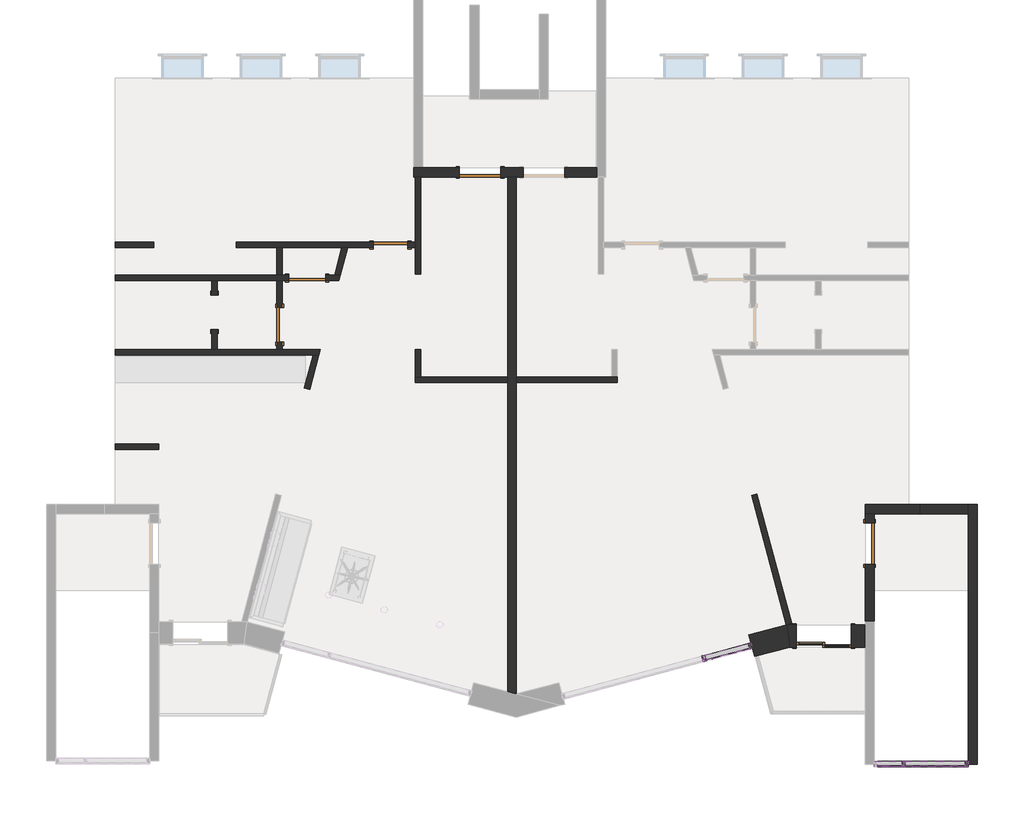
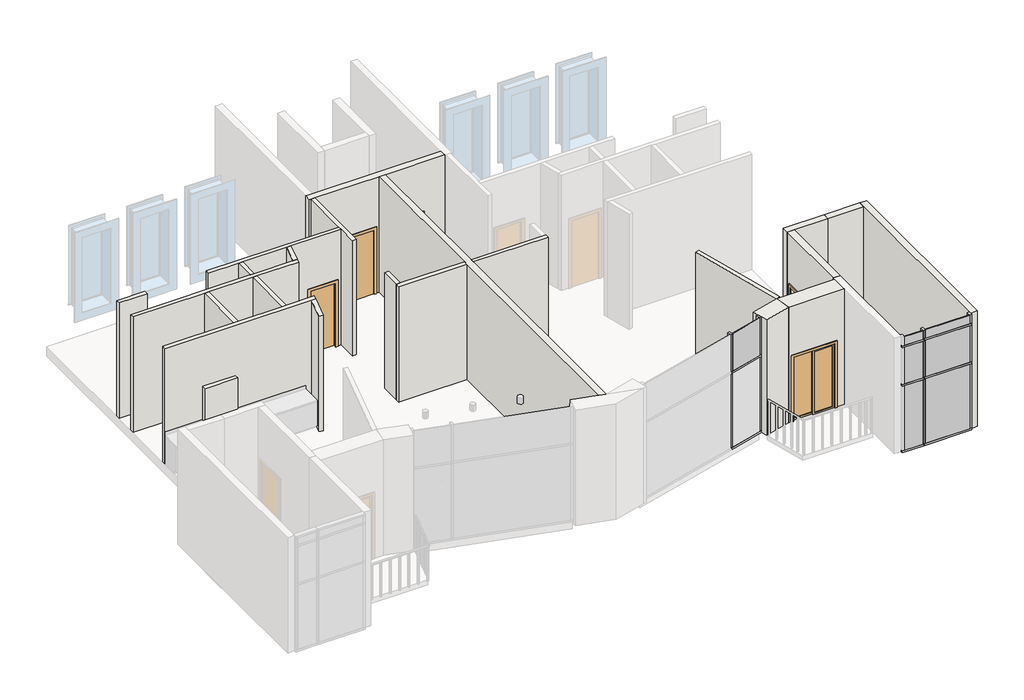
# One storey, part 2 of 3: 23 walls, 18 members, 7 doors, 7 plates.
"""IFC4 building model written with IfcOpenShell, lengths in millimetres."""

from ifc_helpers import new_model, si_unit, frame, origin, place, context, project, spatial, polyline, outline, extrude, faceted_brep, transform, mapped, element, save
from components import door_1d05c9dd, door_91cbdfe0, door_39079f6b, door_8a652669, door_09f6fe45, sliding_2_panel_fa528627, glazed_panel_glazed_panel_41280a37, glazed_panel_glazed_panel_5dc94581, glazed_panel_glazed_panel_56ef64bd, glazed_panel_glazed_panel_eaccde55, glazed_panel_glazed_panel_fd88623c, glazed_panel_glazed_panel_71207702, glazed_panel_glazed_panel_82ed4464

model = new_model("IFC4")

# Units and contexts
model_context = context("Model", 3, world=origin())
ifc_project = project(units=[si_unit("LENGTHUNIT", "METRE", prefix="MILLI")], contexts=[model_context])

# Site, building, storey
site = spatial("IfcSite", under=ifc_project)
building = spatial("IfcBuilding", under=site)
storey = spatial("IfcBuildingStorey", under=building, Name="2nd Flr. Cnst.", Elevation=3657.6)

# Doors
placement = place(None, origin())
door_shape = door_1d05c9dd(model_context)
element("IfcDoor", 1, ObjectType="Cased Opening : 30\" x 80\"", at=placement, inside=storey, context=model_context, shape_type="MappedRepresentation", body=[
    mapped(door_shape, transform((1154.389151, 4191.4326139, 3657.6), x_axis=(0.0, 1.0, 0.0), y_axis=(-1.0, 0.0, 0.0), z_axis=(0.0, 0.0, 1.0))),
])
door_2_shape = door_91cbdfe0(model_context)
element("IfcDoor", 2, ObjectType="Sgl Flush : 30\" x 80\"", at=placement, inside=storey, context=model_context, shape_type="MappedRepresentation", body=[
    mapped(door_2_shape, transform((2598.9499515, 3915.2076139, 3657.6), x_axis=(0.0, -1.0, 0.0), y_axis=(1.0, 0.0, 0.0), z_axis=(0.0, 0.0, 1.0))),
])
door_3_shape = door_39079f6b(model_context)
element("IfcDoor", 3, ObjectType="Sgl Flush : 30\" x 80\"", at=placement, inside=storey, context=model_context, shape_type="MappedRepresentation", body=[
    mapped(door_3_shape, transform((5056.659118, 5686.8576139, 3657.6), x_axis=(1.0, 0.0, 0.0), y_axis=(0.0, 1.0, 0.0), z_axis=(0.0, 0.0, 1.0))),
])
door_4_shape = door_8a652669(model_context)
element("IfcDoor", 4, ObjectType="Sgl Flush : 32\" x 84\"", at=placement, inside=storey, context=model_context, shape_type="MappedRepresentation", body=[
    mapped(door_4_shape, transform((3208.5499515, 4953.4326139, 3657.6), x_axis=(-1.0, 0.0, 0.0), y_axis=(0.0, -1.0, 0.0), z_axis=(0.0, 0.0, 1.0))),
])
door_5_shape = door_09f6fe45(model_context)
element("IfcDoor", 5, ObjectType="Sgl Flush : 36\" x 80\"", at=placement, inside=storey, context=model_context, shape_type="MappedRepresentation", body=[
    mapped(door_5_shape, transform((15670.684118, -933.2992683, 3657.6), x_axis=(0.0, 1.0, 0.0), y_axis=(-1.0, 0.0, 0.0), z_axis=(0.0, 0.0, 1.0))),
])
element("IfcDoor", 6, ObjectType="Sgl Flush : 36\" x 80\"", at=placement, inside=storey, context=model_context, shape_type="MappedRepresentation", body=[
    mapped(door_5_shape, transform((7039.446618, 7296.3007317, 3657.6), x_axis=(1.0, 0.0, 0.0), y_axis=(0.0, 1.0, 0.0), z_axis=(0.0, 0.0, 1.0))),
])
sliding_2_panel_shape = sliding_2_panel_fa528627(model_context)
element("IfcDoor", 7, ObjectType="Sliding-2 panel : Cohouse - Sliding-2 ", at=placement, inside=storey, context=model_context, shape_type="MappedRepresentation", body=[
    mapped(sliding_2_panel_shape, transform((14654.684118, -2855.2035513, 3657.6), x_axis=(-1.0, 0.0, 0.0), y_axis=(0.0, -1.0, 0.0), z_axis=(0.0, 0.0, 1.0))),
])

# Members
element("IfcMember", 8, ObjectType="Rectangular Mullion : 2.5\" x 5\" rectangular", at=placement, inside=storey, context=model_context, shape_type="SweptSolid", body=[
    extrude(outline(polyline([(11954.4366424, -3428.4459656), (12015.7729323, -3412.0109562), (12048.642951, -3534.6835361), (11987.3066611, -3551.1185455), (11954.4366424, -3428.4459656)])), frame((0.0, 0.0, 3721.1), z_axis=(0.0, 0.0, 1.0), x_axis=(1.0, 0.0, 0.0)), (0.0, 0.0, 1.0), 2343.15),
])
element("IfcMember", 9, ObjectType="Rectangular Mullion : 2.5\" x 5\" rectangular", at=placement, inside=storey, context=model_context, shape_type="SweptSolid", body=[
    extrude(outline(polyline([(11954.4366424, -3428.4459656), (12015.7729323, -3412.0109562), (12048.642951, -3534.6835361), (11987.3066611, -3551.1185455), (11954.4366424, -3428.4459656)])), frame((0.0, 0.0, 6127.75), z_axis=(0.0, 0.0, 1.0), x_axis=(1.0, 0.0, 0.0)), (0.0, 0.0, 1.0), 1187.45),
])
element("IfcMember", 10, ObjectType="Rectangular Mullion : 2.5\" x 5\" rectangular", at=placement, inside=storey, context=model_context, shape_type="SweptSolid", body=[
    extrude(outline(polyline([(12017.9748061, -3542.9010408), (11985.1047873, -3420.2284609), (13040.6642809, -3137.392147), (13073.5342996, -3260.064727), (12017.9748061, -3542.9010408)])), frame((0.0, 0.0, 6064.25), z_axis=(0.0, 0.0, 1.0), x_axis=(1.0, 0.0, 0.0)), (0.0, 0.0, 1.0), 63.5),
])
element("IfcMember", 11, ObjectType="Rectangular Mullion : 2.5\" x 5\" rectangular", at=placement, inside=storey, context=model_context, shape_type="SweptSolid", body=[
    extrude(outline(polyline([(13040.6642809, -3137.392147), (13073.5342996, -3260.064727), (12017.9748061, -3542.9010408), (11985.1047873, -3420.2284609), (13040.6642809, -3137.392147)])), frame((0.0, 0.0, 3657.6), z_axis=(0.0, 0.0, 1.0), x_axis=(1.0, 0.0, 0.0)), (0.0, 0.0, 1.0), 63.5),
])
element("IfcMember", 12, ObjectType="Rectangular Mullion : 2.5\" x 5\" rectangular", at=placement, inside=storey, context=model_context, shape_type="SweptSolid", body=[
    extrude(outline(polyline([(13040.6642809, -3137.392147), (13073.5342996, -3260.064727), (13012.1980097, -3276.4997363), (12979.3279909, -3153.8271564), (13040.6642809, -3137.392147)])), frame((0.0, 0.0, 6127.75), z_axis=(0.0, 0.0, 1.0), x_axis=(1.0, 0.0, 0.0)), (0.0, 0.0, 1.0), 1187.45),
])
element("IfcMember", 13, ObjectType="Rectangular Mullion : 2.5\" x 5\" rectangular", at=placement, inside=storey, context=model_context, shape_type="SweptSolid", body=[
    extrude(outline(polyline([(13040.6642809, -3137.392147), (13073.5342996, -3260.064727), (13012.1980097, -3276.4997363), (12979.3279909, -3153.8271564), (13040.6642809, -3137.392147)])), frame((0.0, 0.0, 3721.1), z_axis=(0.0, 0.0, 1.0), x_axis=(1.0, 0.0, 0.0)), (0.0, 0.0, 1.0), 2343.15),
])
element("IfcMember", 14, ObjectType="Rectangular Mullion : 2.5\" x 5\" rectangular", at=placement, inside=storey, context=model_context, shape_type="SweptSolid", body=[
    extrude(outline(polyline([(16391.409118, -5759.6962362), (16454.909118, -5759.6962362), (16454.909118, -5886.6962362), (16391.409118, -5886.6962362), (16391.409118, -5759.6962362)])), frame((0.0, 0.0, 3721.1), z_axis=(0.0, 0.0, 1.0), x_axis=(1.0, 0.0, 0.0)), (0.0, 0.0, 1.0), 2038.35),
])
element("IfcMember", 15, ObjectType="Rectangular Mullion : 2.5\" x 5\" rectangular", at=placement, inside=storey, context=model_context, shape_type="SweptSolid", body=[
    extrude(outline(polyline([(16391.409118, -5759.6962362), (16454.909118, -5759.6962362), (16454.909118, -5886.6962362), (16391.409118, -5886.6962362), (16391.409118, -5759.6962362)])), frame((0.0, 0.0, 7042.15), z_axis=(0.0, 0.0, 1.0), x_axis=(1.0, 0.0, 0.0)), (0.0, 0.0, 1.0), 273.05),
])
element("IfcMember", 16, ObjectType="Rectangular Mullion : 2.5\" x 5\" rectangular", at=placement, inside=storey, context=model_context, shape_type="SweptSolid", body=[
    extrude(outline(polyline([(16391.409118, -5759.6962362), (16454.909118, -5759.6962362), (16454.909118, -5886.6962362), (16391.409118, -5886.6962362), (16391.409118, -5759.6962362)])), frame((0.0, 0.0, 5822.95), z_axis=(0.0, 0.0, 1.0), x_axis=(1.0, 0.0, 0.0)), (0.0, 0.0, 1.0), 1155.7),
])
element("IfcMember", 17, ObjectType="Rectangular Mullion : 2.5\" x 5\" rectangular", at=placement, inside=storey, context=model_context, shape_type="SweptSolid", body=[
    extrude(outline(polyline([(17855.084118, -5759.6962362), (17855.084118, -5886.6962362), (16423.159118, -5886.6962362), (16423.159118, -5759.6962362), (17855.084118, -5759.6962362)])), frame((0.0, 0.0, 3657.6), z_axis=(0.0, 0.0, 1.0), x_axis=(1.0, 0.0, 0.0)), (0.0, 0.0, 1.0), 63.5),
])
element("IfcMember", 18, ObjectType="Rectangular Mullion : 2.5\" x 5\" rectangular", at=placement, inside=storey, context=model_context, shape_type="SweptSolid", body=[
    extrude(outline(polyline([(17855.084118, -5759.6962362), (17855.084118, -5886.6962362), (17791.584118, -5886.6962362), (17791.584118, -5759.6962362), (17855.084118, -5759.6962362)])), frame((0.0, 0.0, 7042.15), z_axis=(0.0, 0.0, 1.0), x_axis=(1.0, 0.0, 0.0)), (0.0, 0.0, 1.0), 273.05),
])
element("IfcMember", 19, ObjectType="Rectangular Mullion : 2.5\" x 5\" rectangular", at=placement, inside=storey, context=model_context, shape_type="SweptSolid", body=[
    extrude(outline(polyline([(16423.159118, -5886.6962362), (16423.159118, -5759.6962362), (17855.084118, -5759.6962362), (17855.084118, -5886.6962362), (16423.159118, -5886.6962362)])), frame((0.0, 0.0, 6978.65), z_axis=(0.0, 0.0, 1.0), x_axis=(1.0, 0.0, 0.0)), (0.0, 0.0, 1.0), 63.5),
])
element("IfcMember", 20, ObjectType="Rectangular Mullion : 2.5\" x 5\" rectangular", at=placement, inside=storey, context=model_context, shape_type="SweptSolid", body=[
    extrude(outline(polyline([(15772.284118, -5886.6962362), (15772.284118, -5759.6962362), (16423.159118, -5759.6962362), (16423.159118, -5886.6962362), (15772.284118, -5886.6962362)])), frame((0.0, 0.0, 6978.65), z_axis=(0.0, 0.0, 1.0), x_axis=(1.0, 0.0, 0.0)), (0.0, 0.0, 1.0), 63.5),
])
element("IfcMember", 21, ObjectType="Rectangular Mullion : 2.5\" x 5\" rectangular", at=placement, inside=storey, context=model_context, shape_type="SweptSolid", body=[
    extrude(outline(polyline([(16423.159118, -5886.6962362), (16423.159118, -5759.6962362), (17855.084118, -5759.6962362), (17855.084118, -5886.6962362), (16423.159118, -5886.6962362)])), frame((0.0, 0.0, 5759.45), z_axis=(0.0, 0.0, 1.0), x_axis=(1.0, 0.0, 0.0)), (0.0, 0.0, 1.0), 63.5),
])
element("IfcMember", 22, ObjectType="Rectangular Mullion : 2.5\" x 5\" rectangular", at=placement, inside=storey, context=model_context, shape_type="SweptSolid", body=[
    extrude(outline(polyline([(15772.284118, -5886.6962362), (15772.284118, -5759.6962362), (16423.159118, -5759.6962362), (16423.159118, -5886.6962362), (15772.284118, -5886.6962362)])), frame((0.0, 0.0, 5759.45), z_axis=(0.0, 0.0, 1.0), x_axis=(1.0, 0.0, 0.0)), (0.0, 0.0, 1.0), 63.5),
])
element("IfcMember", 23, ObjectType="Rectangular Mullion : 2.5\" x 5\" rectangular", at=placement, inside=storey, context=model_context, shape_type="SweptSolid", body=[
    extrude(outline(polyline([(16423.159118, -5759.6962362), (16423.159118, -5886.6962362), (15772.284118, -5886.6962362), (15772.284118, -5759.6962362), (16423.159118, -5759.6962362)])), frame((0.0, 0.0, 3657.6), z_axis=(0.0, 0.0, 1.0), x_axis=(1.0, 0.0, 0.0)), (0.0, 0.0, 1.0), 63.5),
])
element("IfcMember", 24, ObjectType="Rectangular Mullion : 2.5\" x 5\" rectangular", at=placement, inside=storey, context=model_context, shape_type="SweptSolid", body=[
    extrude(outline(polyline([(17855.084118, -5759.6962362), (17855.084118, -5886.6962362), (17791.584118, -5886.6962362), (17791.584118, -5759.6962362), (17855.084118, -5759.6962362)])), frame((0.0, 0.0, 5822.95), z_axis=(0.0, 0.0, 1.0), x_axis=(1.0, 0.0, 0.0)), (0.0, 0.0, 1.0), 1155.7),
])
element("IfcMember", 25, ObjectType="Rectangular Mullion : 2.5\" x 5\" rectangular", at=placement, inside=storey, context=model_context, shape_type="SweptSolid", body=[
    extrude(outline(polyline([(17855.084118, -5759.6962362), (17855.084118, -5886.6962362), (17791.584118, -5886.6962362), (17791.584118, -5759.6962362), (17855.084118, -5759.6962362)])), frame((0.0, 0.0, 3721.1), z_axis=(0.0, 0.0, 1.0), x_axis=(1.0, 0.0, 0.0)), (0.0, 0.0, 1.0), 2038.35),
])

# Plates
glazed_panel_glazed_panel_shape = glazed_panel_glazed_panel_41280a37(model_context)
element("IfcPlate", 26, ObjectType="Glazed Panel : Glazed Panel", at=placement, inside=storey, context=model_context, shape_type="MappedRepresentation", body=[
    mapped(glazed_panel_glazed_panel_shape, transform((12513.985471, -3344.2553463, 6127.75), x_axis=(-0.9659258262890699, -0.25881904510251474, 0.0), y_axis=(0.25881904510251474, -0.9659258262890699, 0.0), z_axis=(0.0, 0.0, 1.0))),
])
glazed_panel_glazed_panel_2_shape = glazed_panel_glazed_panel_5dc94581(model_context)
element("IfcPlate", 27, ObjectType="Glazed Panel : Glazed Panel", at=placement, inside=storey, context=model_context, shape_type="MappedRepresentation", body=[
    mapped(glazed_panel_glazed_panel_2_shape, transform((17123.246618, -5823.1962362, 3721.1), x_axis=(-1.0, 0.0, 0.0), y_axis=(0.0, -1.0, 0.0), z_axis=(0.0, 0.0, 1.0))),
])
glazed_panel_glazed_panel_3_shape = glazed_panel_glazed_panel_56ef64bd(model_context)
element("IfcPlate", 28, ObjectType="Glazed Panel : Glazed Panel", at=placement, inside=storey, context=model_context, shape_type="MappedRepresentation", body=[
    mapped(glazed_panel_glazed_panel_3_shape, transform((17123.246618, -5823.1962362, 7042.15), x_axis=(-1.0, 0.0, 0.0), y_axis=(0.0, -1.0, 0.0), z_axis=(0.0, 0.0, 1.0))),
])
glazed_panel_glazed_panel_4_shape = glazed_panel_glazed_panel_eaccde55(model_context)
element("IfcPlate", 29, ObjectType="Glazed Panel : Glazed Panel", at=placement, inside=storey, context=model_context, shape_type="MappedRepresentation", body=[
    mapped(glazed_panel_glazed_panel_4_shape, transform((16113.596618, -5823.1962362, 3721.1), x_axis=(-1.0, 0.0, 0.0), y_axis=(0.0, -1.0, 0.0), z_axis=(0.0, 0.0, 1.0))),
])
glazed_panel_glazed_panel_5_shape = glazed_panel_glazed_panel_fd88623c(model_context)
element("IfcPlate", 30, ObjectType="Glazed Panel : Glazed Panel", at=placement, inside=storey, context=model_context, shape_type="MappedRepresentation", body=[
    mapped(glazed_panel_glazed_panel_5_shape, transform((16113.596618, -5823.1962362, 7042.15), x_axis=(-1.0, 0.0, 0.0), y_axis=(0.0, -1.0, 0.0), z_axis=(0.0, 0.0, 1.0))),
])
glazed_panel_glazed_panel_6_shape = glazed_panel_glazed_panel_71207702(model_context)
element("IfcPlate", 31, ObjectType="Glazed Panel : Glazed Panel", at=placement, inside=storey, context=model_context, shape_type="MappedRepresentation", body=[
    mapped(glazed_panel_glazed_panel_6_shape, transform((17123.246618, -5823.1962362, 5822.95), x_axis=(-1.0, 0.0, 0.0), y_axis=(0.0, -1.0, 0.0), z_axis=(0.0, 0.0, 1.0))),
])
glazed_panel_glazed_panel_7_shape = glazed_panel_glazed_panel_82ed4464(model_context)
element("IfcPlate", 32, ObjectType="Glazed Panel : Glazed Panel", at=placement, inside=storey, context=model_context, shape_type="MappedRepresentation", body=[
    mapped(glazed_panel_glazed_panel_7_shape, transform((16113.596618, -5823.1962362, 5822.95), x_axis=(-1.0, 0.0, 0.0), y_axis=(0.0, -1.0, 0.0), z_axis=(0.0, 0.0, 1.0))),
])

# Walls
element("IfcWall", 33, ObjectType="Cohouse - Exterior - Conc", at=placement, inside=storey, context=model_context, shape_type="Brep", body=[
    faceted_brep([(7496.646618, 7194.7007317, 3657.6), (7649.046618, 7194.7007317, 3657.6), (7842.721618, 7194.7007317, 3657.6), (7995.121618, 7194.7007317, 3657.6), (7995.121618, 7194.7007317, 5689.6), (8909.521618, 7194.7007317, 5689.6), (8909.521618, 7194.7007317, 3657.6), (9618.6821195, 7194.7007317, 3657.6), (9618.6821195, 7194.7007317, 7315.2), (7842.721618, 7194.7007317, 7315.2), (7649.046618, 7194.7007317, 7315.2), (5728.171618, 7194.7007317, 7315.2), (5604.346618, 7194.7007317, 7315.2), (5564.659118, 7194.7007317, 7315.2), (5564.659118, 7194.7007317, 3657.6), (5604.346618, 7194.7007317, 3657.6), (5728.171618, 7194.7007317, 3657.6), (6582.246618, 7194.7007317, 3657.6), (6582.246618, 7194.7007317, 5689.6), (7496.646618, 7194.7007317, 5689.6), (7995.121618, 7397.9007317, 5689.6), (7995.121618, 7397.9007317, 3657.6), (7496.646618, 7397.9007317, 3657.6), (7496.646618, 7397.9007317, 5689.6), (6582.246618, 7397.9007317, 5689.6), (6582.246618, 7397.9007317, 3657.6), (5767.859118, 7397.9007317, 3657.6), (5564.659118, 7397.9007317, 3657.6), (5564.659118, 7397.9007317, 7315.2), (5767.859118, 7397.9007317, 7315.2), (9618.6821195, 7397.9007317, 7315.2), (9618.6821195, 7397.9007317, 3657.6), (8909.521618, 7397.9007317, 3657.6), (8909.521618, 7397.9007317, 5689.6)], [[[0, 1, 2, 3, 4, 5, 6, 7, 8, 9, 10, 11, 12, 13, 14, 15, 16, 17, 18, 19]], [[20, 21, 22, 23, 24, 25, 26, 27, 28, 29, 30, 31, 32, 33]], [[22, 21, 3, 2, 1, 0]], [[17, 16, 15, 14, 27, 26, 25]], [[32, 31, 7, 6]], [[13, 12, 11, 10, 9, 8, 30, 29, 28]], [[14, 13, 28, 27]], [[8, 7, 31, 30]], [[23, 22, 0, 19]], [[24, 23, 19, 18]], [[25, 24, 18, 17]], [[4, 3, 21, 20]], [[5, 4, 20, 33]], [[6, 5, 33, 32]]]),
])
element("IfcWall", 34, ObjectType="Cohouse - Exterior - Conc", at=placement, inside=storey, context=model_context, shape_type="Brep", body=[
    faceted_brep([(15569.084118, -272.8992683, 3657.6), (15772.284118, -272.8992683, 3657.6), (16785.109118, -272.8992683, 3657.6), (16785.109118, -272.8992683, 7315.2), (15772.284118, -272.8992683, 7315.2), (15569.084118, -272.8992683, 7315.2), (15569.084118, -69.6992683, 3657.6), (15569.084118, -69.6992683, 7315.2), (16785.109118, -69.6992683, 7315.2), (16785.109118, -69.6992683, 3657.6), (16785.109118, -268.4202344, 3657.6), (16785.109118, -266.1666814, 7315.2)], [[[0, 1, 2, 3, 4, 5]], [[6, 7, 8, 9]], [[2, 1, 0, 6, 9, 10]], [[3, 2, 10, 9, 8, 11]], [[5, 4, 3, 11, 8, 7]], [[0, 5, 7, 6]]]),
])
element("IfcWall", 35, ObjectType="Cohouse - Exterior - Conc", at=placement, inside=storey, context=model_context, shape_type="Brep", body=[
    faceted_brep([(17855.084118, -69.6992683, 3657.6), (17855.084118, -272.8992683, 3657.6), (17855.084118, -5792.9662808, 3657.6), (17855.084118, -5823.1962362, 3657.6), (17855.084118, -5823.1962362, 7315.2), (17855.084118, -5816.4636494, 7315.2), (17855.084118, -272.8992683, 7315.2), (17855.084118, -69.6992683, 7315.2), (18058.284118, -69.6992683, 3657.6), (18058.284118, -69.6992683, 7315.2), (18058.284118, -5816.4636494, 7315.2), (18058.284118, -5823.1962362, 7315.2), (18058.284118, -5823.1962362, 3657.6), (18058.284118, -5792.9662808, 3657.6)], [[[0, 1, 2, 3, 4, 5, 6, 7]], [[8, 9, 10, 11, 12, 13]], [[3, 2, 1, 0, 8, 13, 12]], [[4, 3, 12, 11]], [[7, 6, 5, 4, 11, 10, 9]], [[0, 7, 9, 8]]]),
])
element("IfcWall", 36, ObjectType="Cohouse - Exterior - Conc", at=placement, inside=storey, context=model_context, shape_type="SweptSolid", body=[
    extrude(outline(polyline([(-272.8992683, 3657.6), (-476.0992683, 3657.6), (-476.0992683, 5689.6), (-1390.4992683, 5689.6), (-1390.4992683, 3657.6), (-2662.0867683, 3657.6), (-2662.0867683, 7315.2), (-272.8992683, 7315.2), (-272.8992683, 3657.6)])), frame((15569.084118, 0.0, 0.0), z_axis=(1.0, 0.0, 0.0), x_axis=(0.0, 1.0, 0.0)), (0.0, 0.0, 1.0), 203.2),
])
element("IfcWall", 37, ObjectType="Cohouse - Exterior - Conc", at=placement, inside=storey, context=model_context, shape_type="Brep", body=[
    faceted_brep([(16785.109118, -272.8992683, 3657.6), (17855.084118, -272.8992683, 3657.6), (17855.084118, -272.8992683, 7315.2), (16785.109118, -272.8992683, 7315.2), (16785.109118, -69.6992683, 3657.6), (16785.109118, -69.6992683, 7315.2), (17855.084118, -69.6992683, 7315.2), (17855.084118, -69.6992683, 3657.6), (16785.109118, -268.4202344, 3657.6), (17855.084118, -268.4202344, 3657.6), (16785.109118, -266.1666814, 7315.2)], [[[0, 1, 2, 3]], [[4, 5, 6, 7]], [[1, 0, 8, 4, 7, 9]], [[3, 2, 6, 5, 10]], [[0, 3, 10, 5, 4, 8]], [[2, 1, 9, 7, 6]]]),
])
element("IfcWall", 38, ObjectType="Cohouse - Interior - 4 7/8\" Partition (1-hr)", at=placement, inside=storey, context=model_context, shape_type="Brep", body=[
    faceted_brep([(5604.346618, 7194.7007317, 3657.6), (5604.346618, 5748.7701139, 3657.6), (5604.346618, 5624.9451139, 3657.6), (5604.346618, 5043.9201139, 3657.6), (5604.346618, 5043.9201139, 7315.2), (5604.346618, 5624.9451139, 7315.2), (5604.346618, 5748.7701139, 7315.2), (5604.346618, 7194.7007317, 7315.2), (5728.171618, 7194.7007317, 3657.6), (5728.171618, 7194.7007317, 7315.2), (5728.171618, 5043.9201139, 7315.2), (5728.171618, 5043.9201139, 3657.6)], [[[0, 1, 2, 3, 4, 5, 6, 7]], [[8, 9, 10, 11]], [[3, 2, 1, 0, 8, 11]], [[4, 3, 11, 10]], [[7, 6, 5, 4, 10, 9]], [[0, 7, 9, 8]]]),
])
element("IfcWall", 39, ObjectType="Cohouse - Interior - 4 7/8\" Partition (1-hr)", at=placement, inside=storey, context=model_context, shape_type="Brep", body=[
    faceted_brep([(-1045.690882, 3243.6951139, 3657.6), (3338.9393518, 3243.6951139, 3657.6), (3467.1324248, 3243.6951139, 3657.6), (3467.1324248, 3243.6951139, 7315.2), (3338.9393518, 3243.6951139, 7315.2), (-1045.690882, 3243.6951139, 7315.2), (-1045.690882, 3367.5201139, 3657.6), (-1045.690882, 3367.5201139, 7315.2), (1092.476651, 3367.5201139, 7315.2), (1216.301651, 3367.5201139, 7315.2), (2537.0374515, 3367.5201139, 7315.2), (2660.8624515, 3367.5201139, 7315.2), (3500.3112336, 3367.5201139, 7315.2), (3500.3112336, 3367.5201139, 3657.6), (2660.8624515, 3367.5201139, 3657.6), (2537.0374515, 3367.5201139, 3657.6), (1216.301651, 3367.5201139, 3657.6), (1092.476651, 3367.5201139, 3657.6)], [[[0, 1, 2, 3, 4, 5]], [[6, 7, 8, 9, 10, 11, 12, 13, 14, 15, 16, 17]], [[2, 1, 0, 6, 17, 16, 15, 14, 13]], [[5, 4, 3, 12, 11, 10, 9, 8, 7]], [[3, 2, 13, 12]], [[0, 5, 7, 6]]]),
])
element("IfcWall", 40, ObjectType="Cohouse - Interior - 4 7/8\" Partition (1-hr)", at=placement, inside=storey, context=model_context, shape_type="SweptSolid", body=[
    extrude(outline(polyline([(3467.1324248, 3243.6951139), (3264.135703, 2486.1010344), (3144.5299376, 2518.1493026), (3338.9393518, 3243.6951139), (3467.1324248, 3243.6951139)])), frame((0.0, 0.0, 3657.6), z_axis=(0.0, 0.0, 1.0), x_axis=(1.0, 0.0, 0.0)), (0.0, 0.0, 1.0), 3657.6),
])
element("IfcWall", 41, ObjectType="Cohouse - Interior - 4 7/8\" Partition (1-hr)", at=placement, inside=storey, context=model_context, shape_type="Brep", body=[
    faceted_brep([(7649.046618, 2757.9201139, 3657.6), (5728.171618, 2757.9201139, 3657.6), (5604.346618, 2757.9201139, 3657.6), (5604.346618, 2757.9201139, 7315.2), (5728.171618, 2757.9201139, 7315.2), (7649.046618, 2757.9201139, 7315.2), (7649.046618, 2634.0951139, 3657.6), (7649.046618, 2634.0951139, 7315.2), (5604.346618, 2634.0951139, 7315.2), (5604.346618, 2634.0951139, 3657.6)], [[[0, 1, 2, 3, 4, 5]], [[6, 7, 8, 9]], [[2, 1, 0, 6, 9]], [[5, 4, 3, 8, 7]], [[3, 2, 9, 8]], [[0, 5, 7, 6]]]),
])
element("IfcWall", 42, ObjectType="Cohouse - Interior - 4 7/8\" Partition (1-hr)", at=placement, inside=storey, context=model_context, shape_type="SweptSolid", body=[
    extrude(outline(polyline([(5728.171618, 3367.5201139), (5728.171618, 2757.9201139), (5604.346618, 2757.9201139), (5604.346618, 3367.5201139), (5728.171618, 3367.5201139)])), frame((0.0, 0.0, 3657.6), z_axis=(0.0, 0.0, 1.0), x_axis=(1.0, 0.0, 0.0)), (0.0, 0.0, 1.0), 3657.6),
])
element("IfcWall", 43, ObjectType="Cohouse - Interior - 4 7/8\" Partition (1-hr)", at=placement, inside=storey, context=model_context, shape_type="SweptSolid", body=[
    extrude(outline(polyline([(-77.315882, 1149.5007317), (-1045.690882, 1149.5007317), (-1045.690882, 1273.3257317), (-77.315882, 1273.3257317), (-77.315882, 1149.5007317)])), frame((0.0, 0.0, 3657.6), z_axis=(0.0, 0.0, 1.0), x_axis=(1.0, 0.0, 0.0)), (0.0, 0.0, 1.0), 3657.6),
])
element("IfcWall", 44, ObjectType="Cohouse - Interior - 4 7/8\" Partition (1-hr)", at=placement, inside=storey, context=model_context, shape_type="Brep", body=[
    faceted_brep([(-1045.690882, 4891.5201139, 3657.6), (1092.476651, 4891.5201139, 3657.6), (1216.301651, 4891.5201139, 3657.6), (2537.0374515, 4891.5201139, 3657.6), (2660.8624515, 4891.5201139, 3657.6), (2802.1499515, 4891.5201139, 3657.6), (2802.1499515, 4891.5201139, 5791.2), (3614.9499515, 4891.5201139, 5791.2), (3614.9499515, 4891.5201139, 3657.6), (3908.6658028, 4891.5201139, 3657.6), (3908.6658028, 4891.5201139, 7315.2), (2660.8624515, 4891.5201139, 7315.2), (2537.0374515, 4891.5201139, 7315.2), (1216.301651, 4891.5201139, 7315.2), (1092.476651, 4891.5201139, 7315.2), (-1045.690882, 4891.5201139, 7315.2), (2802.1499515, 5015.3451139, 5791.2), (2802.1499515, 5015.3451139, 3657.6), (2660.8624515, 5015.3451139, 3657.6), (2537.0374515, 5015.3451139, 3657.6), (-1045.690882, 5015.3451139, 3657.6), (-1045.690882, 5015.3451139, 7315.2), (2537.0374515, 5015.3451139, 7315.2), (2660.8624515, 5015.3451139, 7315.2), (3813.6515385, 5015.3451139, 7315.2), (3941.8446116, 5015.3451139, 7315.2), (3941.8446116, 5015.3451139, 3657.6), (3813.6515385, 5015.3451139, 3657.6), (3614.9499515, 5015.3451139, 3657.6), (3614.9499515, 5015.3451139, 5791.2)], [[[0, 1, 2, 3, 4, 5, 6, 7, 8, 9, 10, 11, 12, 13, 14, 15]], [[16, 17, 18, 19, 20, 21, 22, 23, 24, 25, 26, 27, 28, 29]], [[20, 19, 18, 17, 5, 4, 3, 2, 1, 0]], [[28, 27, 26, 9, 8]], [[15, 14, 13, 12, 11, 10, 25, 24, 23, 22, 21]], [[10, 9, 26, 25]], [[0, 15, 21, 20]], [[6, 5, 17, 16]], [[7, 6, 16, 29]], [[8, 7, 29, 28]]]),
])
element("IfcWall", 45, ObjectType="Cohouse - Interior - 4 7/8\" Partition (1-hr)", at=placement, inside=storey, context=model_context, shape_type="SweptSolid", body=[
    extrude(outline(polyline([(2660.8624515, 5624.9451139), (2660.8624515, 5015.3451139), (2537.0374515, 5015.3451139), (2537.0374515, 5624.9451139), (2660.8624515, 5624.9451139)])), frame((0.0, 0.0, 3657.6), z_axis=(0.0, 0.0, 1.0), x_axis=(1.0, 0.0, 0.0)), (0.0, 0.0, 1.0), 3657.6),
])
element("IfcWall", 46, ObjectType="Cohouse - Interior - 4 7/8\" Partition (1-hr)", at=placement, inside=storey, context=model_context, shape_type="SweptSolid", body=[
    extrude(outline(polyline([(-195.6046799, 5624.9451139), (-1045.690882, 5624.9451139), (-1045.690882, 5748.7701139), (-195.6046799, 5748.7701139), (-195.6046799, 5624.9451139)])), frame((0.0, 0.0, 3657.6), z_axis=(0.0, 0.0, 1.0), x_axis=(1.0, 0.0, 0.0)), (0.0, 0.0, 1.0), 3657.6),
])
element("IfcWall", 47, ObjectType="Cohouse - Interior - 4 7/8\" Partition (1-hr)", at=placement, inside=storey, context=model_context, shape_type="SweptSolid", body=[
    extrude(outline(polyline([(3534.2076139, 5689.6), (3534.2076139, 3657.6), (3367.5201139, 3657.6), (3367.5201139, 7315.2), (4891.5201139, 7315.2), (4891.5201139, 3657.6), (4296.2076139, 3657.6), (4296.2076139, 5689.6), (3534.2076139, 5689.6)])), frame((2537.0374515, 0.0, 0.0), z_axis=(1.0, 0.0, 0.0), x_axis=(0.0, 1.0, 0.0)), (0.0, 0.0, 1.0), 123.825),
])
element("IfcWall", 48, ObjectType="Cohouse - Interior - 4 7/8\" Partition (1-hr)", at=placement, inside=storey, context=model_context, shape_type="SweptSolid", body=[
    extrude(outline(polyline([(4105.1864393, 5624.9451139), (3941.8446116, 5015.3451139), (3813.6515385, 5015.3451139), (3976.9933663, 5624.9451139), (4105.1864393, 5624.9451139)])), frame((0.0, 0.0, 3657.6), z_axis=(0.0, 0.0, 1.0), x_axis=(1.0, 0.0, 0.0)), (0.0, 0.0, 1.0), 3657.6),
])
element("IfcWall", 49, ObjectType="Cohouse - Interior - 4 7/8\" Partition (1-hr)", at=placement, inside=storey, context=model_context, shape_type="SweptSolid", body=[
    extrude(outline(polyline([(4891.5201139, 3657.6), (4572.4326139, 3657.6), (4572.4326139, 5689.6), (3810.4326139, 5689.6), (3810.4326139, 3657.6), (3367.5201139, 3657.6), (3367.5201139, 7315.2), (4891.5201139, 7315.2), (4891.5201139, 3657.6)])), frame((1092.476651, 0.0, 0.0), z_axis=(1.0, 0.0, 0.0), x_axis=(0.0, 1.0, 0.0)), (0.0, 0.0, 1.0), 123.825),
])
element("IfcWall", 50, ObjectType="Cohouse - Interior - 4 7/8\" Partition (1-hr)", at=placement, inside=storey, context=model_context, shape_type="Brep", body=[
    faceted_brep([(5437.659118, 5624.9451139, 5689.6), (5437.659118, 5624.9451139, 3657.6), (5604.346618, 5624.9451139, 3657.6), (5604.346618, 5624.9451139, 7315.2), (4105.1864393, 5624.9451139, 7315.2), (3976.9933663, 5624.9451139, 7315.2), (2660.8624515, 5624.9451139, 7315.2), (2537.0374515, 5624.9451139, 7315.2), (1633.1953201, 5624.9451139, 7315.2), (1633.1953201, 5624.9451139, 3657.6), (2537.0374515, 5624.9451139, 3657.6), (2660.8624515, 5624.9451139, 3657.6), (3976.9933663, 5624.9451139, 3657.6), (4105.1864393, 5624.9451139, 3657.6), (4675.659118, 5624.9451139, 3657.6), (4675.659118, 5624.9451139, 5689.6), (5604.346618, 5748.7701139, 3657.6), (5437.659118, 5748.7701139, 3657.6), (5437.659118, 5748.7701139, 5689.6), (4675.659118, 5748.7701139, 5689.6), (4675.659118, 5748.7701139, 3657.6), (1633.1953201, 5748.7701139, 3657.6), (1633.1953201, 5748.7701139, 7315.2), (5604.346618, 5748.7701139, 7315.2)], [[[0, 1, 2, 3, 4, 5, 6, 7, 8, 9, 10, 11, 12, 13, 14, 15]], [[16, 17, 18, 19, 20, 21, 22, 23]], [[2, 1, 17, 16]], [[14, 13, 12, 11, 10, 9, 21, 20]], [[8, 7, 6, 5, 4, 3, 23, 22]], [[9, 8, 22, 21]], [[3, 2, 16, 23]], [[18, 17, 1, 0]], [[19, 18, 0, 15]], [[20, 19, 15, 14]]]),
])
element("IfcWall", 51, ObjectType="Cohouse - Interior - 4 7/8\" Partition (1-hr)", at=placement, inside=storey, context=model_context, shape_type="SweptSolid", body=[
    extrude(outline(polyline([(13172.554296, 162.8357678), (13939.8821661, -2700.8708294), (13820.2764006, -2732.9190977), (13052.9485306, 130.7874995), (13172.554296, 162.8357678)])), frame((0.0, 0.0, 3657.6), z_axis=(0.0, 0.0, 1.0), x_axis=(1.0, 0.0, 0.0)), (0.0, 0.0, 1.0), 3657.6),
])
element("IfcWall", 52, ObjectType="Cohouse - Interior - 4 7/8\" Partition (1-hr)", at=placement, inside=storey, context=model_context, shape_type="Brep", body=[
    faceted_brep([(7842.721618, 2634.0951139, 3657.6), (10081.633256, 2634.0951139, 3657.6), (10081.633256, 2634.0951139, 7315.2), (7842.721618, 2634.0951139, 7315.2), (7842.721618, 2757.9201139, 3657.6), (7842.721618, 2757.9201139, 7315.2), (9957.808256, 2757.9201139, 7315.2), (10081.633256, 2757.9201139, 7315.2), (10081.633256, 2757.9201139, 3657.6), (9957.808256, 2757.9201139, 3657.6)], [[[0, 1, 2, 3]], [[4, 5, 6, 7, 8, 9]], [[1, 0, 4, 9, 8]], [[3, 2, 7, 6, 5]], [[2, 1, 8, 7]], [[0, 3, 5, 4]]]),
])
element("IfcWall", 53, ObjectType="Co-house - Exterior - Brick on CMU", at=placement, inside=storey, context=model_context, shape_type="Brep", body=[
    faceted_brep([(14045.084118, -2734.5535513, 5689.6), (14045.084118, -2734.5535513, 3657.6), (13832.5774236, -2734.5535513, 3657.6), (13832.5774236, -2734.5535513, 7315.2), (15569.084118, -2734.5535513, 7315.2), (15569.084118, -2734.5535513, 3657.6), (15264.284118, -2734.5535513, 3657.6), (15264.284118, -2734.5535513, 5689.6), (13897.7849057, -3229.8535513, 3657.6), (14045.084118, -3229.8535513, 3657.6), (14045.084118, -3229.8535513, 5689.6), (15264.284118, -3229.8535513, 5689.6), (15264.284118, -3229.8535513, 3657.6), (15569.084118, -3229.8535513, 3657.6), (15569.084118, -3229.8535513, 7315.2), (13897.7849057, -3229.8535513, 7315.2)], [[[0, 1, 2, 3, 4, 5, 6, 7]], [[8, 9, 10, 11, 12, 13, 14, 15]], [[2, 1, 9, 8]], [[6, 5, 13, 12]], [[4, 3, 15, 14]], [[5, 4, 14, 13]], [[3, 2, 8, 15]], [[12, 11, 7, 6]], [[10, 9, 1, 0]], [[11, 10, 0, 7]]]),
])
element("IfcWall", 54, ObjectType="Co-house - Exterior - Brick on CMU", at=placement, inside=storey, context=model_context, shape_type="SweptSolid", body=[
    extrude(outline(polyline([(12993.0027537, -2959.5169061), (13832.5774236, -2734.5535513), (13897.7849057, -3229.8535513), (13121.1958268, -3437.9399679), (12993.0027537, -2959.5169061)])), frame((0.0, 0.0, 3657.6), z_axis=(0.0, 0.0, 1.0), x_axis=(1.0, 0.0, 0.0)), (0.0, 0.0, 1.0), 3657.6),
])
element("IfcWall", 55, ObjectType="Generic - 8\" Masonry", at=placement, inside=storey, context=model_context, shape_type="Brep", body=[
    faceted_brep([(7842.721618, -4267.8210132, 3657.6), (7842.721618, 2634.0951139, 3657.6), (7842.721618, 2757.9201139, 3657.6), (7842.721618, 7194.7007317, 3657.6), (7842.721618, 7194.7007317, 7315.2), (7842.721618, 2757.9201139, 7315.2), (7842.721618, 2634.0951139, 7315.2), (7842.721618, -4267.8210132, 7315.2), (7649.046618, -4215.9259533, 3657.6), (7649.046618, -4215.9259533, 7315.2), (7649.046618, 2634.0951139, 7315.2), (7649.046618, 2757.9201139, 7315.2), (7649.046618, 7194.7007317, 7315.2), (7649.046618, 7194.7007317, 3657.6), (7649.046618, 2757.9201139, 3657.6), (7649.046618, 2634.0951139, 3657.6)], [[[0, 1, 2, 3, 4, 5, 6, 7]], [[8, 9, 10, 11, 12, 13, 14, 15]], [[3, 2, 1, 0, 8, 15, 14, 13]], [[7, 6, 5, 4, 12, 11, 10, 9]], [[4, 3, 13, 12]], [[0, 7, 9, 8]]]),
])

save(model, "model.ifc")
